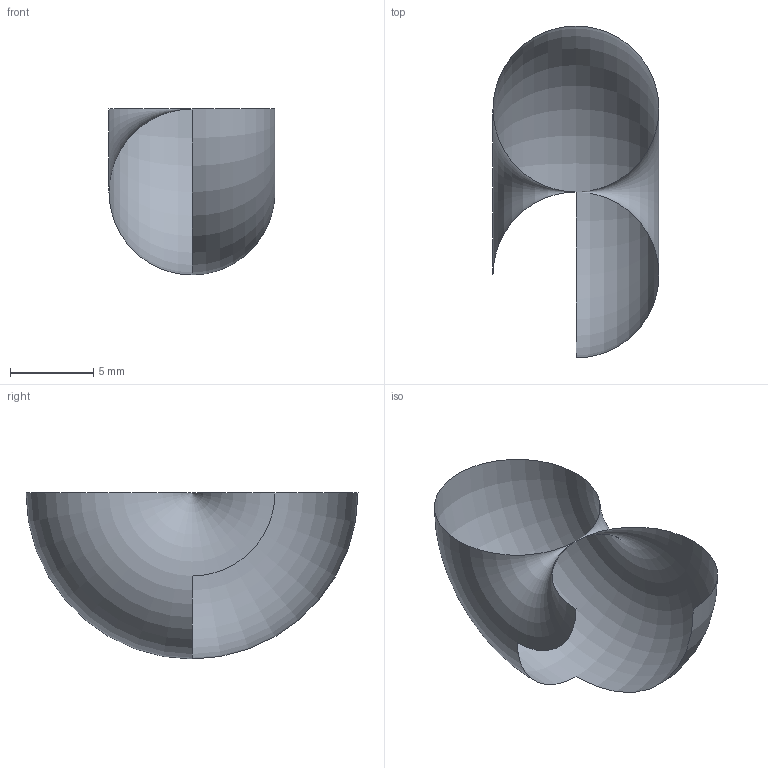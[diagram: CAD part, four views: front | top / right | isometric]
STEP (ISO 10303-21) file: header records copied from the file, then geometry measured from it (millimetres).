
FILE_DESCRIPTION(('BRL-CAD AP214 horn torus keyhole fixture'),'2;1');
FILE_NAME('ap214_horn_torus_keyhole.stp','2026-08-05T00:00:00',('BRL-CAD'),('BRL-CAD'),'','','');
FILE_SCHEMA(('AUTOMOTIVE_DESIGN { 1 0 10303 214 3 1 1 1 }'));
Length unit declared in the file: millimetre
Products named in the file (1): horn_torus_keyhole
Bounding box: 10 x 20 x 10 mm (x, y, z)
Surface area: 392.5 mm2 (no closed solid volume)
Topology: 0 solids, 1 shells, 1 faces, 8 edges, 6 vertices
Faces by surface type: torus 1
Entity records: 71 total; most frequent: CARTESIAN_POINT 11, DIRECTION 10, ORIENTED_EDGE 9, EDGE_CURVE 8, VERTEX_POINT 6, AXIS2_PLACEMENT_3D 5, CIRCLE 5, TOROIDAL_SURFACE 1
